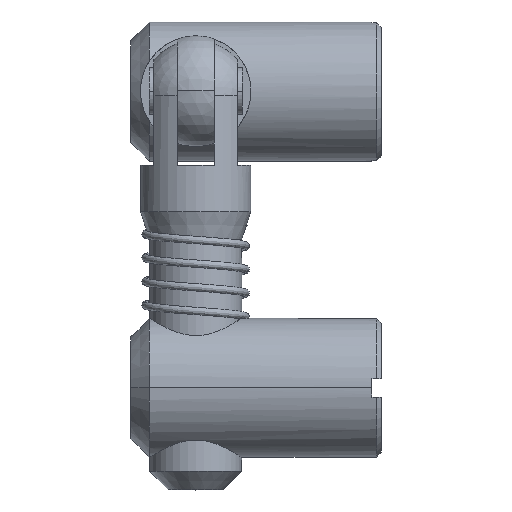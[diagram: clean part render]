
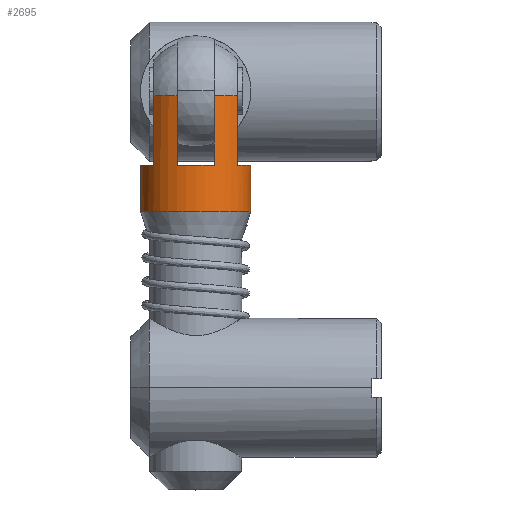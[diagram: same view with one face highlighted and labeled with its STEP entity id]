
A CAD part, top view. The second image highlights one B-rep face of the part: STEP entity #2695.
In plain terms, the highlighted cylindrical face has radius 5.95 mm (diameter 11.9 mm), a partial arc.
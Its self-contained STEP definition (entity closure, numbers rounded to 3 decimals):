
#40 = CIRCLE ( 'NONE', #4043, 5.95 ) ;
#47 = EDGE_CURVE ( 'NONE', #712, #1663, #6918, .T. ) ;
#168 = VERTEX_POINT ( 'NONE', #2530 ) ;
#178 = AXIS2_PLACEMENT_3D ( 'NONE', #1925, #1902, #1835 ) ;
#191 = VERTEX_POINT ( 'NONE', #2540 ) ;
#268 = AXIS2_PLACEMENT_3D ( 'NONE', #6668, #6737, #6645 ) ;
#316 = CIRCLE ( 'NONE', #3307, 5.95 ) ;
#380 = DIRECTION ( 'NONE',  ( 0., 0., 1. ) ) ;
#396 = DIRECTION ( 'NONE',  ( 0., 1., 0. ) ) ;
#403 = CARTESIAN_POINT ( 'NONE',  ( -26.171, 8.416, 8.829 ) ) ;
#404 = ORIENTED_EDGE ( 'NONE', *, *, #3068, .F. ) ;
#456 = LINE ( 'NONE', #1931, #1597 ) ;
#500 = DIRECTION ( 'NONE',  ( 0., 1., 0. ) ) ;
#563 = CARTESIAN_POINT ( 'NONE',  ( -28.171, 21.866, 14.432 ) ) ;
#712 = VERTEX_POINT ( 'NONE', #4797 ) ;
#753 = EDGE_CURVE ( 'NONE', #168, #1605, #2719, .T. ) ;
#989 = VERTEX_POINT ( 'NONE', #6013 ) ;
#1129 = ORIENTED_EDGE ( 'NONE', *, *, #753, .T. ) ;
#1345 = EDGE_CURVE ( 'NONE', #989, #1663, #1780, .T. ) ;
#1384 = EDGE_CURVE ( 'NONE', #3128, #6893, #456, .T. ) ;
#1473 = ORIENTED_EDGE ( 'NONE', *, *, #4478, .T. ) ;
#1552 = DIRECTION ( 'NONE',  ( -1., 0., 0. ) ) ;
#1555 = FACE_OUTER_BOUND ( 'NONE', #6059, .T. ) ;
#1574 = DIRECTION ( 'NONE',  ( 0., 1., 0. ) ) ;
#1597 = VECTOR ( 'NONE', #1873, 1000. ) ;
#1599 = CARTESIAN_POINT ( 'NONE',  ( -26.171, 3.416, 8.829 ) ) ;
#1605 = VERTEX_POINT ( 'NONE', #4659 ) ;
#1663 = VERTEX_POINT ( 'NONE', #5143 ) ;
#1691 = CARTESIAN_POINT ( 'NONE',  ( -24.171, 15.916, 14.432 ) ) ;
#1732 = CARTESIAN_POINT ( 'NONE',  ( -32.121, 3.416, 8.829 ) ) ;
#1780 = LINE ( 'NONE', #563, #6272 ) ;
#1835 = DIRECTION ( 'NONE',  ( 0., 0., 1. ) ) ;
#1853 = AXIS2_PLACEMENT_3D ( 'NONE', #2026, #2038, #2045 ) ;
#1860 = VECTOR ( 'NONE', #4151, 1000. ) ;
#1873 = DIRECTION ( 'NONE',  ( 0., 1., 0. ) ) ;
#1902 = DIRECTION ( 'NONE',  ( 0., -1., 0. ) ) ;
#1925 = CARTESIAN_POINT ( 'NONE',  ( -26.171, 8.416, 8.829 ) ) ;
#1930 = CARTESIAN_POINT ( 'NONE',  ( -32.121, 21.866, 8.829 ) ) ;
#1931 = CARTESIAN_POINT ( 'NONE',  ( -21.671, 21.866, 12.721 ) ) ;
#1956 = DIRECTION ( 'NONE',  ( 0., 1., 0. ) ) ;
#2026 = CARTESIAN_POINT ( 'NONE',  ( -26.171, 15.916, 8.829 ) ) ;
#2038 = DIRECTION ( 'NONE',  ( 0., 1., 0. ) ) ;
#2045 = DIRECTION ( 'NONE',  ( -1., 0., 0. ) ) ;
#2098 = VERTEX_POINT ( 'NONE', #4728 ) ;
#2228 = CARTESIAN_POINT ( 'NONE',  ( -26.171, 15.916, 8.829 ) ) ;
#2261 = VERTEX_POINT ( 'NONE', #1732 ) ;
#2530 = CARTESIAN_POINT ( 'NONE',  ( -20.221, 3.416, 8.829 ) ) ;
#2540 = CARTESIAN_POINT ( 'NONE',  ( -24.171, 8.416, 14.432 ) ) ;
#2620 = CARTESIAN_POINT ( 'NONE',  ( -21.671, 8.416, 12.721 ) ) ;
#2695 = ADVANCED_FACE ( 'NONE', ( #1555 ), #7238, .T. ) ;
#2709 = VECTOR ( 'NONE', #5183, 1000. ) ;
#2719 = LINE ( 'NONE', #4880, #5028 ) ;
#2823 = DIRECTION ( 'NONE',  ( -1., 0., 0. ) ) ;
#2945 = CARTESIAN_POINT ( 'NONE',  ( -32.121, 8.416, 8.829 ) ) ;
#3023 = DIRECTION ( 'NONE',  ( 0., 0., 1. ) ) ;
#3059 = DIRECTION ( 'NONE',  ( 0., 1., 0. ) ) ;
#3068 = EDGE_CURVE ( 'NONE', #3128, #1605, #316, .T. ) ;
#3116 = CARTESIAN_POINT ( 'NONE',  ( -26.171, 8.416, 8.829 ) ) ;
#3128 = VERTEX_POINT ( 'NONE', #2620 ) ;
#3307 = AXIS2_PLACEMENT_3D ( 'NONE', #3116, #3059, #3023 ) ;
#3346 = ORIENTED_EDGE ( 'NONE', *, *, #3968, .F. ) ;
#3375 = EDGE_CURVE ( 'NONE', #989, #191, #6214, .T. ) ;
#3535 = ORIENTED_EDGE ( 'NONE', *, *, #4929, .T. ) ;
#3928 = AXIS2_PLACEMENT_3D ( 'NONE', #403, #396, #380 ) ;
#3968 = EDGE_CURVE ( 'NONE', #2261, #4294, #4340, .T. ) ;
#4013 = VERTEX_POINT ( 'NONE', #1691 ) ;
#4043 = AXIS2_PLACEMENT_3D ( 'NONE', #1599, #1574, #1552 ) ;
#4089 = ORIENTED_EDGE ( 'NONE', *, *, #6271, .F. ) ;
#4151 = DIRECTION ( 'NONE',  ( 0., 1., 0. ) ) ;
#4247 = LINE ( 'NONE', #5301, #2709 ) ;
#4294 = VERTEX_POINT ( 'NONE', #2945 ) ;
#4340 = LINE ( 'NONE', #1930, #5931 ) ;
#4478 = EDGE_CURVE ( 'NONE', #2261, #168, #40, .T. ) ;
#4659 = CARTESIAN_POINT ( 'NONE',  ( -20.221, 8.416, 8.829 ) ) ;
#4728 = CARTESIAN_POINT ( 'NONE',  ( -30.671, 8.416, 12.721 ) ) ;
#4797 = CARTESIAN_POINT ( 'NONE',  ( -30.671, 15.916, 12.721 ) ) ;
#4880 = CARTESIAN_POINT ( 'NONE',  ( -20.221, 21.866, 8.829 ) ) ;
#4925 = DIRECTION ( 'NONE',  ( 0., 1., 0. ) ) ;
#4929 = EDGE_CURVE ( 'NONE', #2098, #4294, #5921, .T. ) ;
#4930 = ORIENTED_EDGE ( 'NONE', *, *, #47, .F. ) ;
#5028 = VECTOR ( 'NONE', #4925, 1000. ) ;
#5105 = ORIENTED_EDGE ( 'NONE', *, *, #1345, .T. ) ;
#5143 = CARTESIAN_POINT ( 'NONE',  ( -28.171, 15.916, 14.432 ) ) ;
#5183 = DIRECTION ( 'NONE',  ( 0., -1., 0. ) ) ;
#5301 = CARTESIAN_POINT ( 'NONE',  ( -24.171, 21.866, 14.432 ) ) ;
#5531 = EDGE_CURVE ( 'NONE', #4013, #191, #4247, .T. ) ;
#5921 = CIRCLE ( 'NONE', #178, 5.95 ) ;
#5931 = VECTOR ( 'NONE', #1956, 1000. ) ;
#6013 = CARTESIAN_POINT ( 'NONE',  ( -28.171, 8.416, 14.432 ) ) ;
#6059 = EDGE_LOOP ( 'NONE', ( #1473, #1129, #404, #7244, #6863, #6697, #6510, #5105, #4930, #4089, #3535, #3346 ) ) ;
#6214 = CIRCLE ( 'NONE', #3928, 5.95 ) ;
#6267 = CIRCLE ( 'NONE', #7516, 5.95 ) ;
#6271 = EDGE_CURVE ( 'NONE', #2098, #712, #6554, .T. ) ;
#6272 = VECTOR ( 'NONE', #500, 1000. ) ;
#6349 = DIRECTION ( 'NONE',  ( 0., 1., 0. ) ) ;
#6375 = CARTESIAN_POINT ( 'NONE',  ( -21.671, 15.916, 12.721 ) ) ;
#6510 = ORIENTED_EDGE ( 'NONE', *, *, #3375, .F. ) ;
#6554 = LINE ( 'NONE', #7110, #1860 ) ;
#6645 = DIRECTION ( 'NONE',  ( -1., 0., 0. ) ) ;
#6668 = CARTESIAN_POINT ( 'NONE',  ( -26.171, 21.866, 8.829 ) ) ;
#6697 = ORIENTED_EDGE ( 'NONE', *, *, #5531, .T. ) ;
#6737 = DIRECTION ( 'NONE',  ( 0., 1., 0. ) ) ;
#6846 = EDGE_CURVE ( 'NONE', #4013, #6893, #6267, .T. ) ;
#6863 = ORIENTED_EDGE ( 'NONE', *, *, #6846, .F. ) ;
#6893 = VERTEX_POINT ( 'NONE', #6375 ) ;
#6918 = CIRCLE ( 'NONE', #1853, 5.95 ) ;
#7110 = CARTESIAN_POINT ( 'NONE',  ( -30.671, 21.866, 12.721 ) ) ;
#7238 = CYLINDRICAL_SURFACE ( 'NONE', #268, 5.95 ) ;
#7244 = ORIENTED_EDGE ( 'NONE', *, *, #1384, .T. ) ;
#7516 = AXIS2_PLACEMENT_3D ( 'NONE', #2228, #6349, #2823 ) ;
